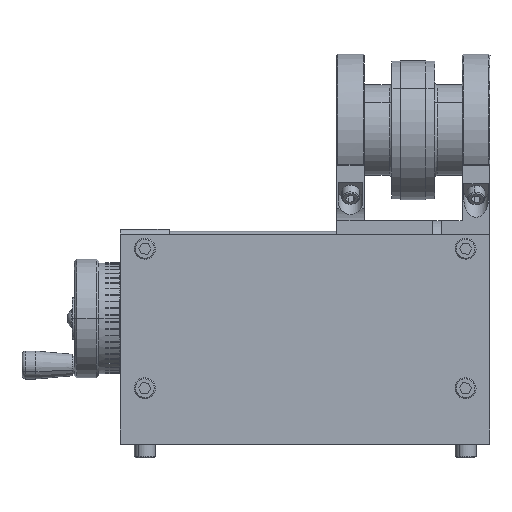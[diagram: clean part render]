
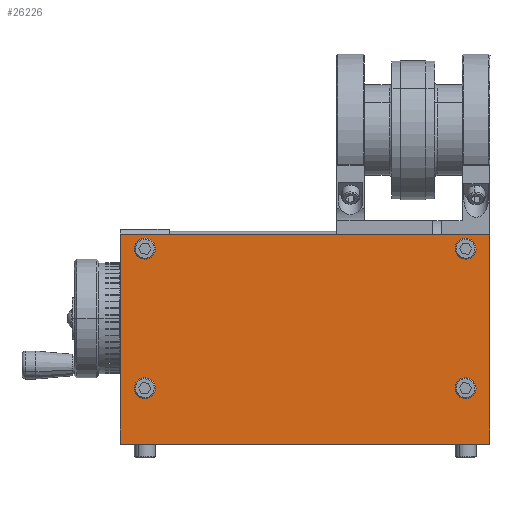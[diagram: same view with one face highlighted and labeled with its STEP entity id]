
A CAD part, left-side view. The second image highlights one B-rep face of the part: STEP entity #26226.
In plain terms, the highlighted planar face has unit normal (-1, 0, 0).
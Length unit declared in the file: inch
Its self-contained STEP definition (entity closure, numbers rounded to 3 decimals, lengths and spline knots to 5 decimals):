
#804 = ORIENTED_EDGE ( 'NONE', *, *, #9493, .F. ) ;
#1252 = EDGE_LOOP ( 'NONE', ( #27858, #7907 ) ) ;
#2054 = DIRECTION ( 'NONE',  ( -1., 0., 0. ) ) ;
#2580 = DIRECTION ( 'NONE',  ( 0., -1., 0. ) ) ;
#2782 = EDGE_CURVE ( 'NONE', #61270, #14087, #53002, .T. ) ;
#2992 = VERTEX_POINT ( 'NONE', #26370 ) ;
#3373 = VECTOR ( 'NONE', #55261, 39.37008 ) ;
#4435 = FACE_BOUND ( 'NONE', #26419, .T. ) ;
#5308 = CARTESIAN_POINT ( 'NONE',  ( -1.5, 6.625, -5.625 ) ) ;
#5834 = VERTEX_POINT ( 'NONE', #55404 ) ;
#5864 = AXIS2_PLACEMENT_3D ( 'NONE', #23765, #48898, #59461 ) ;
#5986 = AXIS2_PLACEMENT_3D ( 'NONE', #47084, #17766, #51990 ) ;
#6656 = AXIS2_PLACEMENT_3D ( 'NONE', #57808, #28431, #62679 ) ;
#7802 = AXIS2_PLACEMENT_3D ( 'NONE', #31376, #2054, #36311 ) ;
#7907 = ORIENTED_EDGE ( 'NONE', *, *, #19824, .F. ) ;
#9493 = EDGE_CURVE ( 'NONE', #38252, #55802, #30880, .T. ) ;
#9740 = ORIENTED_EDGE ( 'NONE', *, *, #13823, .F. ) ;
#10308 = EDGE_CURVE ( 'NONE', #37895, #20261, #12232, .T. ) ;
#10577 = CIRCLE ( 'NONE', #7802, 0.1406 ) ;
#10690 = CARTESIAN_POINT ( 'NONE',  ( -1.5, 0.5781, -2.125 ) ) ;
#12232 = LINE ( 'NONE', #63018, #35148 ) ;
#13386 = VECTOR ( 'NONE', #24511, 39.37008 ) ;
#13823 = EDGE_CURVE ( 'NONE', #5834, #18692, #63391, .T. ) ;
#14084 = AXIS2_PLACEMENT_3D ( 'NONE', #55418, #26030, #60294 ) ;
#14087 = VERTEX_POINT ( 'NONE', #22558 ) ;
#14849 = ORIENTED_EDGE ( 'NONE', *, *, #27019, .F. ) ;
#15726 = CARTESIAN_POINT ( 'NONE',  ( -1.5, 6.625, -1.875 ) ) ;
#17001 = CARTESIAN_POINT ( 'NONE',  ( -1.5, 0., -1.875 ) ) ;
#17448 = FACE_BOUND ( 'NONE', #1252, .T. ) ;
#17672 = CIRCLE ( 'NONE', #55310, 0.1406 ) ;
#17766 = DIRECTION ( 'NONE',  ( 1., 0., 0. ) ) ;
#18692 = VERTEX_POINT ( 'NONE', #17001 ) ;
#18761 = EDGE_CURVE ( 'NONE', #38528, #37553, #44642, .T. ) ;
#19315 = EDGE_CURVE ( 'NONE', #37553, #38528, #17672, .T. ) ;
#19824 = EDGE_CURVE ( 'NONE', #56169, #2992, #10577, .T. ) ;
#20261 = VERTEX_POINT ( 'NONE', #34969 ) ;
#20478 = FACE_BOUND ( 'NONE', #32460, .T. ) ;
#20810 = ORIENTED_EDGE ( 'NONE', *, *, #18761, .F. ) ;
#21024 = CARTESIAN_POINT ( 'NONE',  ( -1.5, 6.625, -5.625 ) ) ;
#21026 = CARTESIAN_POINT ( 'NONE',  ( -1.5, 0.4375, -4.625 ) ) ;
#21072 = EDGE_CURVE ( 'NONE', #14087, #61270, #37789, .T. ) ;
#22319 = CARTESIAN_POINT ( 'NONE',  ( -1.5, 6.1875, -4.625 ) ) ;
#22558 = CARTESIAN_POINT ( 'NONE',  ( -1.5, 6.3281, -2.125 ) ) ;
#22610 = EDGE_CURVE ( 'NONE', #55802, #38252, #53482, .T. ) ;
#23471 = ORIENTED_EDGE ( 'NONE', *, *, #21072, .F. ) ;
#23692 = CARTESIAN_POINT ( 'NONE',  ( -1.5, 0.2969, -2.125 ) ) ;
#23765 = CARTESIAN_POINT ( 'NONE',  ( -1.5, 6.1875, -2.125 ) ) ;
#24511 = DIRECTION ( 'NONE',  ( 0., 0., 1. ) ) ;
#25810 = VECTOR ( 'NONE', #49985, 39.37008 ) ;
#25897 = DIRECTION ( 'NONE',  ( 0., -1., 0. ) ) ;
#26030 = DIRECTION ( 'NONE',  ( -1., 0., 0. ) ) ;
#26226 = ADVANCED_FACE ( 'NONE', ( #56495, #20478, #17448, #4435, #54939 ), #56688, .F. ) ;
#26370 = CARTESIAN_POINT ( 'NONE',  ( -1.5, 0.2969, -4.625 ) ) ;
#26419 = EDGE_LOOP ( 'NONE', ( #804, #38640 ) ) ;
#26945 = CARTESIAN_POINT ( 'NONE',  ( -1.5, 6.1875, -4.625 ) ) ;
#27019 = EDGE_CURVE ( 'NONE', #37895, #5834, #40853, .T. ) ;
#27088 = ORIENTED_EDGE ( 'NONE', *, *, #2782, .F. ) ;
#27098 = CARTESIAN_POINT ( 'NONE',  ( -1.5, 6.0469, -2.125 ) ) ;
#27243 = DIRECTION ( 'NONE',  ( 0., -1., 0. ) ) ;
#27389 = CARTESIAN_POINT ( 'NONE',  ( -1.5, 6.0469, -4.625 ) ) ;
#27858 = ORIENTED_EDGE ( 'NONE', *, *, #39036, .F. ) ;
#28431 = DIRECTION ( 'NONE',  ( -1., 0., 0. ) ) ;
#28844 = CIRCLE ( 'NONE', #32946, 0.1406 ) ;
#30880 = CIRCLE ( 'NONE', #14084, 0.1406 ) ;
#31376 = CARTESIAN_POINT ( 'NONE',  ( -1.5, 0.4375, -4.625 ) ) ;
#31900 = DIRECTION ( 'NONE',  ( 0., -1., 0. ) ) ;
#31918 = DIRECTION ( 'NONE',  ( -1., 0., 0. ) ) ;
#32460 = EDGE_LOOP ( 'NONE', ( #42302, #20810 ) ) ;
#32723 = ORIENTED_EDGE ( 'NONE', *, *, #36674, .T. ) ;
#32946 = AXIS2_PLACEMENT_3D ( 'NONE', #21026, #55263, #25897 ) ;
#33128 = EDGE_LOOP ( 'NONE', ( #27088, #23471 ) ) ;
#33627 = ORIENTED_EDGE ( 'NONE', *, *, #10308, .T. ) ;
#33843 = AXIS2_PLACEMENT_3D ( 'NONE', #61205, #31918, #2580 ) ;
#34969 = CARTESIAN_POINT ( 'NONE',  ( -1.5, 0., -5.625 ) ) ;
#35148 = VECTOR ( 'NONE', #48472, 39.37008 ) ;
#36311 = DIRECTION ( 'NONE',  ( 0., -1., 0. ) ) ;
#36674 = EDGE_CURVE ( 'NONE', #20261, #18692, #50911, .T. ) ;
#37553 = VERTEX_POINT ( 'NONE', #27389 ) ;
#37789 = CIRCLE ( 'NONE', #6656, 0.1406 ) ;
#37895 = VERTEX_POINT ( 'NONE', #5308 ) ;
#38252 = VERTEX_POINT ( 'NONE', #23692 ) ;
#38528 = VERTEX_POINT ( 'NONE', #50426 ) ;
#38640 = ORIENTED_EDGE ( 'NONE', *, *, #22610, .F. ) ;
#39036 = EDGE_CURVE ( 'NONE', #2992, #56169, #28844, .T. ) ;
#40853 = LINE ( 'NONE', #21024, #3373 ) ;
#42302 = ORIENTED_EDGE ( 'NONE', *, *, #19315, .F. ) ;
#44294 = EDGE_LOOP ( 'NONE', ( #32723, #9740, #14849, #33627 ) ) ;
#44642 = CIRCLE ( 'NONE', #47105, 0.1406 ) ;
#47084 = CARTESIAN_POINT ( 'NONE',  ( -1.5, 6.625, -5.625 ) ) ;
#47105 = AXIS2_PLACEMENT_3D ( 'NONE', #22319, #56592, #27243 ) ;
#48472 = DIRECTION ( 'NONE',  ( 0., -1., 0. ) ) ;
#48898 = DIRECTION ( 'NONE',  ( -1., 0., 0. ) ) ;
#49985 = DIRECTION ( 'NONE',  ( 0., -1., 0. ) ) ;
#50426 = CARTESIAN_POINT ( 'NONE',  ( -1.5, 6.3281, -4.625 ) ) ;
#50911 = LINE ( 'NONE', #58957, #13386 ) ;
#51990 = DIRECTION ( 'NONE',  ( 0., 1., 0. ) ) ;
#53002 = CIRCLE ( 'NONE', #5864, 0.1406 ) ;
#53248 = CARTESIAN_POINT ( 'NONE',  ( -1.5, 0.5781, -4.625 ) ) ;
#53482 = CIRCLE ( 'NONE', #33843, 0.1406 ) ;
#54939 = FACE_OUTER_BOUND ( 'NONE', #44294, .T. ) ;
#55261 = DIRECTION ( 'NONE',  ( 0., 0., 1. ) ) ;
#55263 = DIRECTION ( 'NONE',  ( -1., 0., 0. ) ) ;
#55310 = AXIS2_PLACEMENT_3D ( 'NONE', #26945, #61186, #31900 ) ;
#55404 = CARTESIAN_POINT ( 'NONE',  ( -1.5, 6.625, -1.875 ) ) ;
#55418 = CARTESIAN_POINT ( 'NONE',  ( -1.5, 0.4375, -2.125 ) ) ;
#55802 = VERTEX_POINT ( 'NONE', #10690 ) ;
#56169 = VERTEX_POINT ( 'NONE', #53248 ) ;
#56495 = FACE_BOUND ( 'NONE', #33128, .T. ) ;
#56592 = DIRECTION ( 'NONE',  ( -1., 0., 0. ) ) ;
#56688 = PLANE ( 'NONE',  #5986 ) ;
#57808 = CARTESIAN_POINT ( 'NONE',  ( -1.5, 6.1875, -2.125 ) ) ;
#58957 = CARTESIAN_POINT ( 'NONE',  ( -1.5, 0., -5.625 ) ) ;
#59461 = DIRECTION ( 'NONE',  ( 0., -1., 0. ) ) ;
#60294 = DIRECTION ( 'NONE',  ( 0., -1., 0. ) ) ;
#61186 = DIRECTION ( 'NONE',  ( -1., 0., 0. ) ) ;
#61205 = CARTESIAN_POINT ( 'NONE',  ( -1.5, 0.4375, -2.125 ) ) ;
#61270 = VERTEX_POINT ( 'NONE', #27098 ) ;
#62679 = DIRECTION ( 'NONE',  ( 0., -1., 0. ) ) ;
#63018 = CARTESIAN_POINT ( 'NONE',  ( -1.5, 6.625, -5.625 ) ) ;
#63391 = LINE ( 'NONE', #15726, #25810 ) ;
